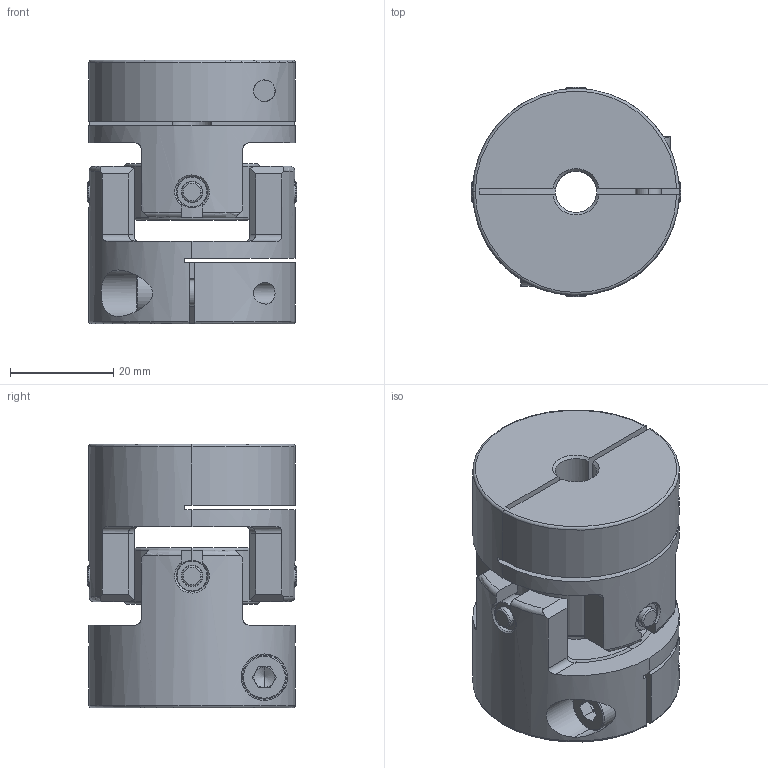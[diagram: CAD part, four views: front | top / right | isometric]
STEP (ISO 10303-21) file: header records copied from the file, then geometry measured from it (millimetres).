
FILE_DESCRIPTION (( 'STEP AP203' ), '1' );
FILE_NAME ('SCJB-40C-8X15_203.STEP', '2013-03-05T06:25:43', ( '' ), ( '' ), 'SwSTEP 2.0', 'SolidWorks 2012', '' );
FILE_SCHEMA (( 'CONFIG_CONTROL_DESIGN' ));
Length unit declared in the file: millimetre
Products named in the file (1): SCJB-40C-8X15_203
Bounding box: 40.5 x 40.5 x 51 mm (x, y, z)
Volume: 45571.7 mm3; surface area: 19275.5 mm2
Topology: 1 solids, 1 shells, 343 faces, 856 edges, 525 vertices
Faces by surface type: plane 114, cylinder 104, torus 76, cone 37, bspline 12
Entity records: 15804 total; most frequent: CARTESIAN_POINT 7626, DIRECTION 1733, ORIENTED_EDGE 1704, EDGE_CURVE 852, AXIS2_PLACEMENT_3D 722, VERTEX_POINT 525, CIRCLE 390, EDGE_LOOP 371
